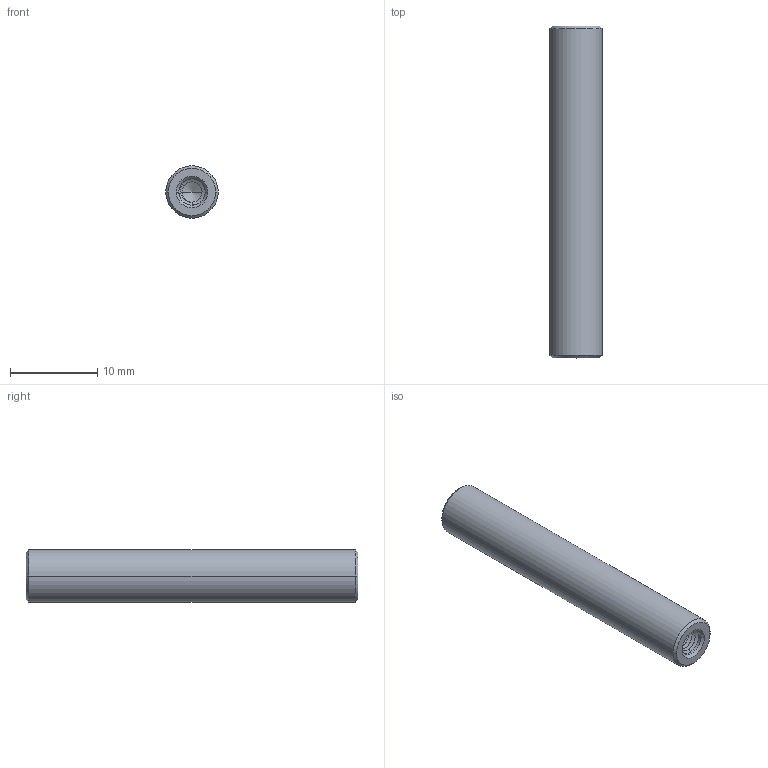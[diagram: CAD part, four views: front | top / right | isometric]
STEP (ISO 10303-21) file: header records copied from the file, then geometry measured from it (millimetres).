
FILE_DESCRIPTION((''),'2;1');
FILE_NAME('PCM-S_38','2021-04-19T',('Administrator'),(''),'CREO PARAMETRIC BY PTC INC, 2015290','CREO PARAMETRIC BY PTC INC, 2015290','');
FILE_SCHEMA(('CONFIG_CONTROL_DESIGN'));
Length unit declared in the file: millimetre
Products named in the file (1): PCM-S_38
Bounding box: 6 x 38 x 6 mm (x, y, z)
Volume: 981.2 mm3; surface area: 975 mm2
Topology: 1 solids, 1 shells, 93 faces, 253 edges, 160 vertices
Faces by surface type: cylinder 55, bspline 24, cone 12, plane 2
Entity records: 7238 total; most frequent: CARTESIAN_POINT 5217, ORIENTED_EDGE 498, DIRECTION 266, EDGE_CURVE 249, VERTEX_POINT 160, B_SPLINE_CURVE_WITH_KNOTS 141, EDGE_LOOP 95, FACE_OUTER_BOUND 93
